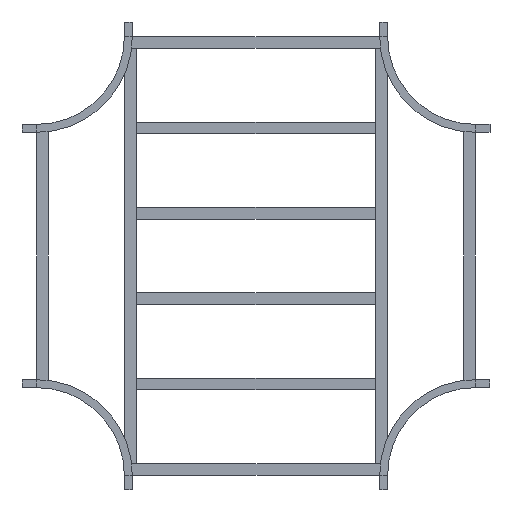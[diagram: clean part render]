
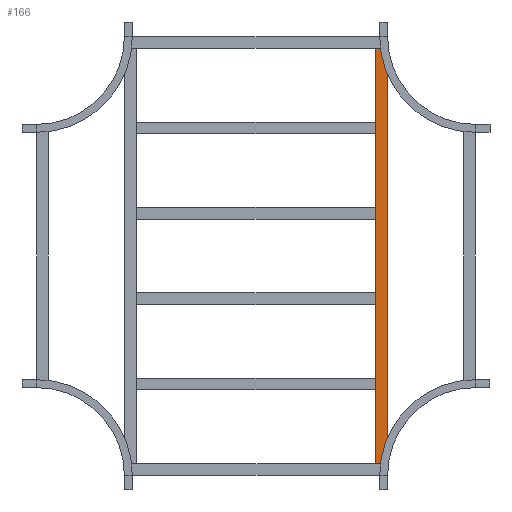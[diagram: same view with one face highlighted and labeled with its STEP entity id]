
A CAD part, front view. The second image highlights one B-rep face of the part: STEP entity #166.
In plain terms, the highlighted planar face has unit normal (0, -1, 0).
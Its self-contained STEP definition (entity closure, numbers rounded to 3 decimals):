
#52 = CARTESIAN_POINT ( 'NONE',  ( -709.5, 0., 20.25 ) ) ;
#60 = LINE ( 'NONE', #950, #192 ) ;
#63 = LINE ( 'NONE', #1365, #1000 ) ;
#166 = ADVANCED_FACE ( 'NONE', ( #674 ), #233, .F. ) ;
#192 = VECTOR ( 'NONE', #933, 1000. ) ;
#233 = PLANE ( 'NONE',  #740 ) ;
#311 = ORIENTED_EDGE ( 'NONE', *, *, #876, .F. ) ;
#346 = VERTEX_POINT ( 'NONE', #1045 ) ;
#379 = EDGE_CURVE ( 'NONE', #346, #551, #60, .T. ) ;
#382 = LINE ( 'NONE', #52, #790 ) ;
#439 = ORIENTED_EDGE ( 'NONE', *, *, #1173, .T. ) ;
#490 = LINE ( 'NONE', #824, #1314 ) ;
#491 = CARTESIAN_POINT ( 'NONE',  ( -709.5, 0., -20.25 ) ) ;
#551 = VERTEX_POINT ( 'NONE', #1298 ) ;
#674 = FACE_OUTER_BOUND ( 'NONE', #764, .T. ) ;
#710 = VERTEX_POINT ( 'NONE', #812 ) ;
#740 = AXIS2_PLACEMENT_3D ( 'NONE', #917, #994, #1111 ) ;
#744 = VERTEX_POINT ( 'NONE', #491 ) ;
#764 = EDGE_LOOP ( 'NONE', ( #439, #311, #1026, #1075 ) ) ;
#790 = VECTOR ( 'NONE', #1259, 1000. ) ;
#812 = CARTESIAN_POINT ( 'NONE',  ( 709.5, 0., -20.25 ) ) ;
#824 = CARTESIAN_POINT ( 'NONE',  ( 709.5, 0., 20.25 ) ) ;
#876 = EDGE_CURVE ( 'NONE', #710, #744, #63, .T. ) ;
#917 = CARTESIAN_POINT ( 'NONE',  ( 709.5, 0., 20.25 ) ) ;
#933 = DIRECTION ( 'NONE',  ( -1., 0., 0. ) ) ;
#950 = CARTESIAN_POINT ( 'NONE',  ( 709.5, 0., 20.25 ) ) ;
#994 = DIRECTION ( 'NONE',  ( 0., 1., 0. ) ) ;
#1000 = VECTOR ( 'NONE', #1065, 1000. ) ;
#1026 = ORIENTED_EDGE ( 'NONE', *, *, #1170, .F. ) ;
#1045 = CARTESIAN_POINT ( 'NONE',  ( 709.5, 0., 20.25 ) ) ;
#1065 = DIRECTION ( 'NONE',  ( -1., 0., 0. ) ) ;
#1075 = ORIENTED_EDGE ( 'NONE', *, *, #379, .T. ) ;
#1111 = DIRECTION ( 'NONE',  ( 0., 0., 1. ) ) ;
#1170 = EDGE_CURVE ( 'NONE', #346, #710, #490, .T. ) ;
#1173 = EDGE_CURVE ( 'NONE', #551, #744, #382, .T. ) ;
#1259 = DIRECTION ( 'NONE',  ( 0., 0., -1. ) ) ;
#1298 = CARTESIAN_POINT ( 'NONE',  ( -709.5, 0., 20.25 ) ) ;
#1314 = VECTOR ( 'NONE', #1358, 1000. ) ;
#1358 = DIRECTION ( 'NONE',  ( 0., 0., -1. ) ) ;
#1365 = CARTESIAN_POINT ( 'NONE',  ( 709.5, 0., -20.25 ) ) ;
